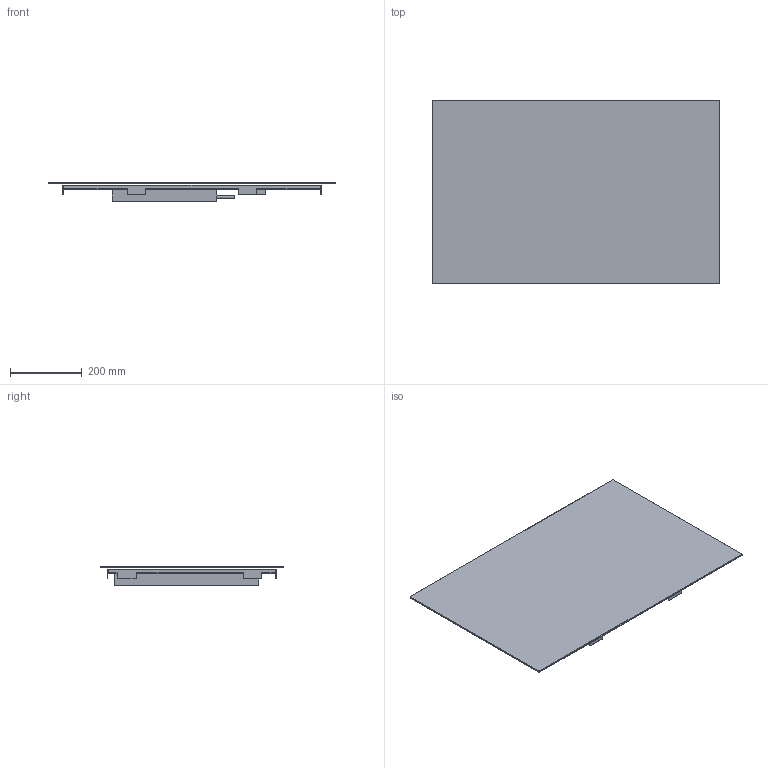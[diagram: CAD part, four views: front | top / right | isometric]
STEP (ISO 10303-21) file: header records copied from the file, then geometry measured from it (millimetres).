
FILE_DESCRIPTION(/* description */ (''),/* implementation_level */ '2;1');
FILE_NAME(/* name */ 'SI1M24844D.stp',/* time_stamp */ '2026-07-17T14:02:28+02:00',/* author */ (''),/* organization */ (''),/* preprocessor_version */ 'ST-DEVELOPER v20',/* originating_system */ 'SIEMENS PLM Software NX2412.4001',/* authorisation */ '');
FILE_SCHEMA (('AUTOMOTIVE_DESIGN { 1 0 10303 214 3 1 1 1 }'));
Length unit declared in the file: millimetre
Products named in the file (1): SI1M24844D_stp_objects
Bounding box: 800 x 510 x 52.66 mm (x, y, z)
Volume: 5944277.4 mm3; surface area: 1834154.7 mm2
Topology: 4 solids, 4 shells, 168 faces, 490 edges, 316 vertices
Faces by surface type: plane 105, cylinder 55, torus 8
Full cylindrical faces by diameter (mm): 8 x1, 50.391 x1, 50.438 x1
Entity records: 5582 total; most frequent: ORIENTED_EDGE 974, CARTESIAN_POINT 972, DIRECTION 943, EDGE_CURVE 487, LINE 369, VECTOR 369, VERTEX_POINT 316, AXIS2_PLACEMENT_3D 287
